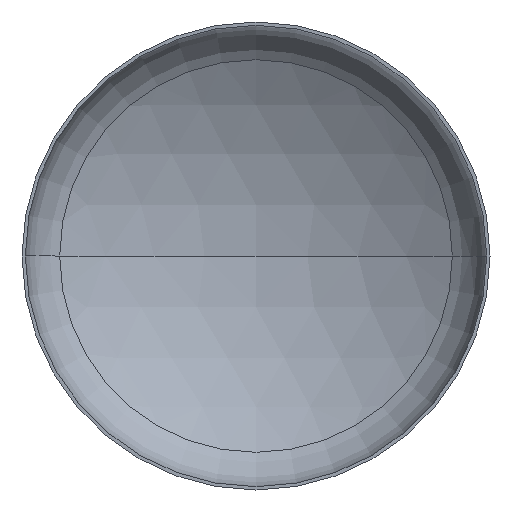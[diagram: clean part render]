
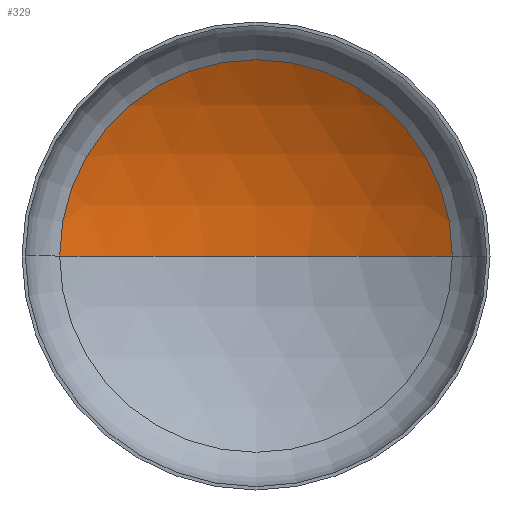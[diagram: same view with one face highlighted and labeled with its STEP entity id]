
A CAD part, front view. The second image highlights one B-rep face of the part: STEP entity #329.
In plain terms, the highlighted spherical face has radius 2880 mm.
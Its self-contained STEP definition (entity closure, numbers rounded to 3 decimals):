
#5 = AXIS2_PLACEMENT_3D ( 'NONE', #330, #115, #368 ) ;
#11 = CARTESIAN_POINT ( 'NONE',  ( -1509.987, 557.601, 0. ) ) ;
#12 = EDGE_LOOP ( 'NONE', ( #98, #103, #86 ) ) ;
#17 = AXIS2_PLACEMENT_3D ( 'NONE', #165, #170, #293 ) ;
#18 = AXIS2_PLACEMENT_3D ( 'NONE', #183, #334, #199 ) ;
#19 = CARTESIAN_POINT ( 'NONE',  ( 1509.987, 557.601, 0. ) ) ;
#20 = CARTESIAN_POINT ( 'NONE',  ( 0., 985.186, 0. ) ) ;
#32 = DIRECTION ( 'NONE',  ( 0., 0., -1. ) ) ;
#37 = CARTESIAN_POINT ( 'NONE',  ( 0., -1894.814, 0. ) ) ;
#39 = AXIS2_PLACEMENT_3D ( 'NONE', #37, #32, #391 ) ;
#86 = ORIENTED_EDGE ( 'NONE', *, *, #364, .T. ) ;
#98 = ORIENTED_EDGE ( 'NONE', *, *, #357, .F. ) ;
#100 = CIRCLE ( 'NONE', #18, 2880. ) ;
#103 = ORIENTED_EDGE ( 'NONE', *, *, #349, .T. ) ;
#115 = DIRECTION ( 'NONE',  ( 0., -1., 0. ) ) ;
#131 = VERTEX_POINT ( 'NONE', #19 ) ;
#148 = VERTEX_POINT ( 'NONE', #20 ) ;
#149 = VERTEX_POINT ( 'NONE', #11 ) ;
#165 = CARTESIAN_POINT ( 'NONE',  ( 0., -1894.814, 0. ) ) ;
#170 = DIRECTION ( 'NONE',  ( 0., 0., 1. ) ) ;
#183 = CARTESIAN_POINT ( 'NONE',  ( 0., -1894.814, 0. ) ) ;
#191 = CIRCLE ( 'NONE', #17, 2880. ) ;
#199 = DIRECTION ( 'NONE',  ( -1., 0., 0. ) ) ;
#207 = SPHERICAL_SURFACE ( 'NONE', #39, 2880. ) ;
#293 = DIRECTION ( 'NONE',  ( 1., 0., 0. ) ) ;
#304 = CIRCLE ( 'NONE', #5, 1509.987 ) ;
#317 = FACE_OUTER_BOUND ( 'NONE', #12, .T. ) ;
#329 = ADVANCED_FACE ( 'NONE', ( #317 ), #207, .F. ) ;
#330 = CARTESIAN_POINT ( 'NONE',  ( 0., 557.601, 0. ) ) ;
#334 = DIRECTION ( 'NONE',  ( 0., 0., -1. ) ) ;
#349 = EDGE_CURVE ( 'NONE', #148, #131, #100, .T. ) ;
#357 = EDGE_CURVE ( 'NONE', #148, #149, #191, .T. ) ;
#364 = EDGE_CURVE ( 'NONE', #131, #149, #304, .T. ) ;
#368 = DIRECTION ( 'NONE',  ( 1., 0., 0. ) ) ;
#391 = DIRECTION ( 'NONE',  ( -1., 0., 0. ) ) ;
